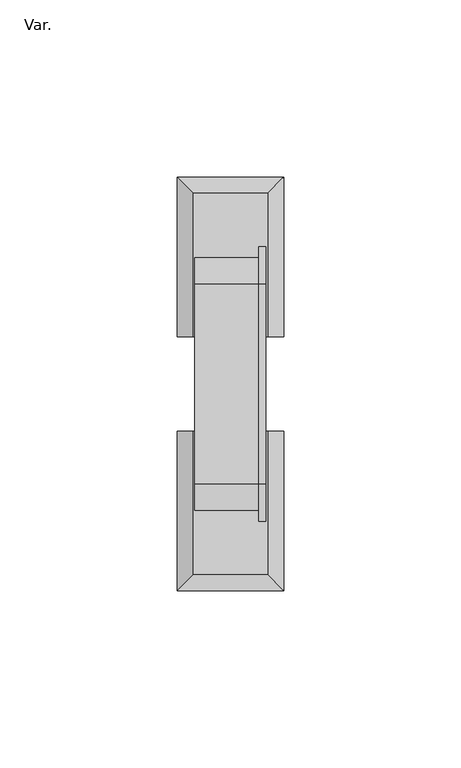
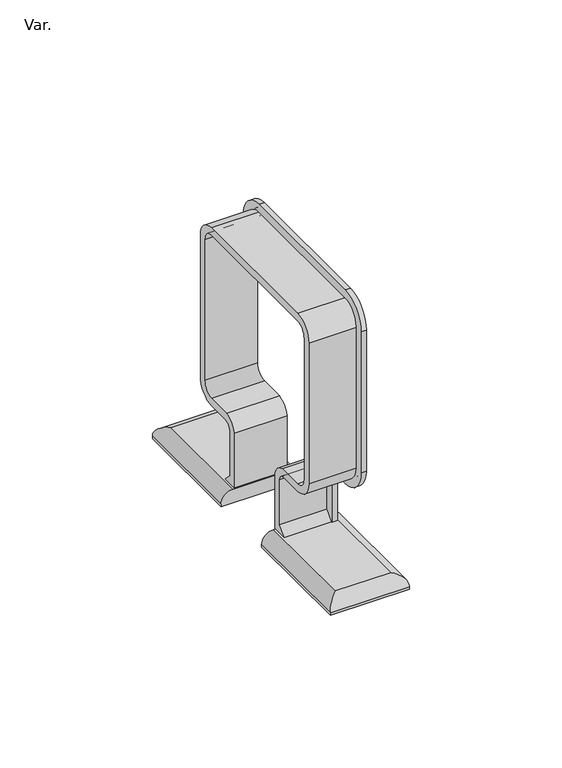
"""IFC4 building model written with IfcOpenShell, lengths in millimetres: pipe fitting geometry, PavcoWavin_UnionesDeTuberia_ZBajante Tradicional_Soporte_NoUsarUnion : Var.."""

from ifc_helpers import new_model, si_unit, point, frame, frame_2d, origin, place, context, project, spatial, polyline, circle_curve, ellipse_curve, trimmed, segment, composite_curve, outline, extrude, source, transform, mapped, element, save
from ifc_brep_helpers import plane_surface, cylinder_surface, advanced_brep


def var_cdb6bf59(model_context):
    return source(origin(), model_context, "Body", "SolidModel", [
        advanced_brep(
        [(25.0, 13.34, -65.265), (25.0, 58.34, -65.265), (25.0, 58.34, -64.265), (25.0, 13.34, -64.265), (-5.0, 58.34, -64.265), (-5.0, 58.34, -65.265), (-5.0, 13.34, -65.265), (-5.0, 13.34, -64.265), (20.5, 53.84, -59.765), (-0.5, 53.84, -59.765), (-0.5, 13.34, -59.765), (20.5, 13.34, -59.765)],
        [
            (0, 1),
            (1, 2),
            (2, 3),
            (3, 0),
            (4, 5),
            (5, 6),
            (6, 7),
            (7, 4),
            (8, 9),
            (9, 10),
            (10, 11),
            (11, 8),
            (6, 0),
            (3, 11, circle_curve(frame((20.5, 13.34, -64.265), z_axis=(0.0, -1.0, 0.0), x_axis=(-1.0, 0.0, 0.0)), 4.5)),
            (10, 7, circle_curve(frame((-0.5, 13.34, -64.265), z_axis=(0.0, -1.0, 0.0), x_axis=(1.0, 0.0, 0.0)), 4.5)),
            (5, 1),
            (2, 8, ellipse_curve(frame((20.5, 53.84, -64.265), z_axis=(0.7071067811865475, -0.7071067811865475, 0.0), x_axis=(0.7071067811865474, 0.7071067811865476, 0.0)), 6.363961, 4.5)),
            (9, 4, ellipse_curve(frame((-0.5, 53.84, -64.265), z_axis=(-0.7071067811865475, -0.7071067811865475, 0.0), x_axis=(-0.7071067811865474, 0.7071067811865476, 0.0)), 6.363961, 4.5)),
            (4, 2),
        ],
        [
            plane_surface(frame((25.0, 13.34, -59.765), z_axis=(1.0, 0.0, 0.0), x_axis=(0.0, -1.0, 0.0))),
            plane_surface(frame((-5.0, 13.34, -59.765), z_axis=(-1.0, 0.0, 0.0), x_axis=(0.0, 1.0, 0.0))),
            plane_surface(frame((25.0, 53.84, -59.765), z_axis=(0.0, 0.0, 1.0), x_axis=(-1.0, 0.0, 0.0))),
            plane_surface(frame((25.0, 13.34, -59.765), z_axis=(0.0, -1.0, 0.0), x_axis=(-1.0, 0.0, 0.0))),
            plane_surface(frame((25.0, 13.34, -65.265), z_axis=(0.0, 0.0, -1.0), x_axis=(-1.0, 0.0, 0.0))),
            cylinder_surface(frame((20.5, 77.5, -64.265), z_axis=(0.0, 1.0, 0.0), x_axis=(-1.0, 0.0, 0.0)), 4.5),
            cylinder_surface(frame((-0.5, 0.0, -64.265), z_axis=(0.0, 1.0, 0.0), x_axis=(1.0, 0.0, 0.0)), 4.5),
            plane_surface(frame((25.0, 58.34, -65.265), z_axis=(0.0, 1.0, 0.0), x_axis=(-1.0, 0.0, 0.0))),
            cylinder_surface(frame((-5.0, 53.84, -64.265), z_axis=(1.0, 0.0, 0.0), x_axis=(0.0, -1.0, 0.0)), 4.5),
        ],
        [
            (0, [[1, 2, 3, 4]]),
            (1, [[5, 6, 7, 8]]),
            (2, [[9, 10, 11, 12]]),
            (3, [[13, -4, 14, -11, 15, -7]]),
            (4, [[-1, -13, -6, 16]]),
            (5, [[-3, 17, -12, -14]]),
            (6, [[-8, -15, -10, 18]]),
            (7, [[-2, -16, -5, 19]]),
            (8, [[-19, -18, -9, -17]]),
        ],
    ),
        advanced_brep(
        [(25.0, -58.34, -64.265), (25.0, -58.34, -65.265), (25.0, -13.34, -65.265), (25.0, -13.34, -64.265), (-5.0, -13.34, -65.265), (-5.0, -58.34, -65.265), (-5.0, -58.34, -64.265), (-5.0, -13.34, -64.265), (20.5, -53.84, -59.765), (-0.5, -53.84, -59.765), (-0.5, -13.34, -59.765), (20.5, -13.34, -59.765)],
        [
            (0, 1),
            (1, 2),
            (2, 3),
            (3, 0),
            (4, 5),
            (5, 6),
            (6, 7),
            (7, 4),
            (6, 0),
            (0, 8, ellipse_curve(frame((20.5, -53.84, -64.265), z_axis=(-0.7071067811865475, -0.7071067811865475, 0.0), x_axis=(0.7071067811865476, -0.7071067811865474, 0.0)), 6.363961, 4.5)),
            (8, 9),
            (9, 6, ellipse_curve(frame((-0.5, -53.84, -64.265), z_axis=(0.7071067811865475, -0.7071067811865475, 0.0), x_axis=(0.7071067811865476, 0.7071067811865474, 0.0)), 6.363961, 4.5)),
            (5, 1),
            (4, 2),
            (7, 10, circle_curve(frame((-0.5, -13.34, -64.265), z_axis=(0.0, 1.0, 0.0), x_axis=(1.0, 0.0, 0.0)), 4.5)),
            (10, 11),
            (11, 3, circle_curve(frame((20.5, -13.34, -64.265), z_axis=(0.0, 1.0, 0.0), x_axis=(-1.0, 0.0, 0.0)), 4.5)),
            (8, 11),
            (10, 9),
        ],
        [
            plane_surface(frame((25.0, 13.34, -59.765), z_axis=(1.0, 0.0, 0.0), x_axis=(0.0, -1.0, 0.0))),
            plane_surface(frame((-5.0, 13.34, -59.765), z_axis=(-1.0, 0.0, 0.0), x_axis=(0.0, 1.0, 0.0))),
            cylinder_surface(frame((0.0, -53.84, -64.265), z_axis=(1.0, 0.0, 0.0), x_axis=(0.0, 1.0, 0.0)), 4.5),
            plane_surface(frame((25.0, -58.34, -64.265), z_axis=(0.0, -1.0, 0.0), x_axis=(-1.0, 0.0, 0.0))),
            plane_surface(frame((25.0, -58.34, -65.265), z_axis=(0.0, 0.0, -1.0), x_axis=(-1.0, 0.0, 0.0))),
            plane_surface(frame((25.0, -13.34, -65.265), z_axis=(0.0, 1.0, 0.0), x_axis=(-1.0, 0.0, 0.0))),
            plane_surface(frame((25.0, -13.34, -59.765), z_axis=(0.0, 0.0, 1.0), x_axis=(-1.0, 0.0, 0.0))),
            cylinder_surface(frame((20.5, 77.5, -64.265), z_axis=(0.0, 1.0, 0.0), x_axis=(-1.0, 0.0, 0.0)), 4.5),
            cylinder_surface(frame((-0.5, 0.0, -64.265), z_axis=(0.0, 1.0, 0.0), x_axis=(1.0, 0.0, 0.0)), 4.5),
        ],
        [
            (0, [[1, 2, 3, 4]]),
            (1, [[5, 6, 7, 8]]),
            (2, [[9, 10, 11, 12]]),
            (3, [[-1, -9, -6, 13]]),
            (4, [[-2, -13, -5, 14]]),
            (5, [[-14, -8, 15, 16, 17, -3]]),
            (6, [[-11, 18, -16, 19]]),
            (7, [[-4, -17, -18, -10]]),
            (8, [[-7, -12, -19, -15]]),
        ],
    ),
        extrude(outline(composite_curve([segment(trimmed(circle_curve(frame_2d((28.165, 28.165)), 7.4), [point((35.565, 28.165))], [point((28.165, 35.565))], True, "CARTESIAN"), True, "CONTINUOUS"), segment(polyline([(28.165, 35.565), (-28.165, 35.565)]), True, "CONTINUOUS"), segment(trimmed(circle_curve(frame_2d((-28.165, 28.165)), 7.4), [point((-28.165, 35.565))], [point((-35.565, 28.165))], True, "CARTESIAN"), True, "CONTINUOUS"), segment(polyline([(-35.565, 28.165), (-35.565, -28.165)]), True, "CONTINUOUS"), segment(trimmed(circle_curve(frame_2d((-28.165, -28.165)), 7.4), [point((-35.565, -28.165))], [point((-28.165, -35.565))], True, "CARTESIAN"), True, "CONTINUOUS"), segment(polyline([(-28.165, -35.565), (-18.9164961, -35.565)]), True, "CONTINUOUS"), segment(trimmed(circle_curve(frame_2d((-19.6122672, -38.9951461)), 3.5), [point((-18.9164961, -35.565))], [point((-16.1821211, -38.299375))], False, "CARTESIAN"), True, "CONTINUOUS"), segment(polyline([(-16.1821211, -38.299375), (-16.1821211, -56.265), (-19.6821211, -59.765), (-19.6821211, -38.665), (-28.165, -38.665)]), True, "CONTINUOUS"), segment(trimmed(circle_curve(frame_2d((-28.165, -28.165)), 10.5), [point((-28.165, -38.665))], [point((-38.665, -28.165))], False, "CARTESIAN"), True, "CONTINUOUS"), segment(polyline([(-38.665, -28.165), (-38.665, 28.165)]), True, "CONTINUOUS"), segment(trimmed(circle_curve(frame_2d((-28.165, 28.165)), 10.5), [point((-38.665, 28.165))], [point((-28.165, 38.665))], False, "CARTESIAN"), True, "CONTINUOUS"), segment(polyline([(-28.165, 38.665), (28.165, 38.665)]), True, "CONTINUOUS"), segment(trimmed(circle_curve(frame_2d((28.165, 28.165)), 10.5), [point((28.165, 38.665))], [point((38.665, 28.165))], False, "CARTESIAN"), True, "CONTINUOUS"), segment(polyline([(38.665, 28.165), (38.665, -28.165)]), True, "CONTINUOUS"), segment(trimmed(circle_curve(frame_2d((28.165, -28.165)), 10.5), [point((38.665, -28.165))], [point((28.165, -38.665))], False, "CARTESIAN"), True, "CONTINUOUS"), segment(polyline([(28.165, -38.665), (19.6821211, -38.665), (19.6821211, -59.765), (16.1821211, -56.265), (16.1821211, -38.299375)]), True, "CONTINUOUS"), segment(trimmed(circle_curve(frame_2d((19.6122672, -38.9951461)), 3.5), [point((16.1821211, -38.299375))], [point((18.9164961, -35.565))], False, "CARTESIAN"), True, "CONTINUOUS"), segment(polyline([(18.9164961, -35.565), (28.165, -35.565)]), True, "CONTINUOUS"), segment(trimmed(circle_curve(frame_2d((28.165, -28.165)), 7.4), [point((28.165, -35.565))], [point((35.565, -28.165))], True, "CARTESIAN"), True, "CONTINUOUS"), segment(polyline([(35.565, -28.165), (35.565, 28.165)]), True, "CONTINUOUS")], self_intersect=False)), frame((18.0, 0.0, 0.0), z_axis=(1.0, 0.0, 0.0), x_axis=(0.0, 1.0, 0.0)), (0.0, 0.0, 1.0), 2.0),
        extrude(outline(composite_curve([segment(polyline([(35.565, 28.165), (35.565, -28.165)]), True, "CONTINUOUS"), segment(trimmed(circle_curve(frame_2d((28.165, -28.165)), 7.4), [point((35.565, -28.165))], [point((28.165, -35.565))], False, "CARTESIAN"), True, "CONTINUOUS"), segment(polyline([(28.165, -35.565), (18.9164961, -35.565)]), True, "CONTINUOUS"), segment(trimmed(circle_curve(frame_2d((19.6122672, -38.9951461)), 3.5), [point((18.9164961, -35.565))], [point((16.1821211, -38.299375))], True, "CARTESIAN"), True, "CONTINUOUS"), segment(polyline([(16.1821211, -38.299375), (16.1821211, -56.265), (19.6821211, -59.765), (13.34, -59.765), (13.34, -37.665)]), True, "CONTINUOUS"), segment(trimmed(circle_curve(frame_2d((19.6122672, -38.9372672)), 6.4), [point((13.34, -37.665))], [point((18.34, -32.665))], False, "CARTESIAN"), True, "CONTINUOUS"), segment(polyline([(18.34, -32.665), (28.165, -32.665)]), True, "CONTINUOUS"), segment(trimmed(circle_curve(frame_2d((28.165, -28.165)), 4.5), [point((28.165, -32.665))], [point((32.665, -28.165))], True, "CARTESIAN"), True, "CONTINUOUS"), segment(polyline([(32.665, -28.165), (32.665, 28.165)]), True, "CONTINUOUS"), segment(trimmed(circle_curve(frame_2d((28.165, 28.165)), 4.5), [point((32.665, 28.165))], [point((28.165, 32.665))], True, "CARTESIAN"), True, "CONTINUOUS"), segment(polyline([(28.165, 32.665), (-28.165, 32.665)]), True, "CONTINUOUS"), segment(trimmed(circle_curve(frame_2d((-28.165, 28.165)), 4.5), [point((-28.165, 32.665))], [point((-32.665, 28.165))], True, "CARTESIAN"), True, "CONTINUOUS"), segment(polyline([(-32.665, 28.165), (-32.665, -28.165)]), True, "CONTINUOUS"), segment(trimmed(circle_curve(frame_2d((-28.165, -28.165)), 4.5), [point((-32.665, -28.165))], [point((-28.165, -32.665))], True, "CARTESIAN"), True, "CONTINUOUS"), segment(polyline([(-28.165, -32.665), (-18.34, -32.665)]), True, "CONTINUOUS"), segment(trimmed(circle_curve(frame_2d((-19.6122672, -38.9372672)), 6.4), [point((-18.34, -32.665))], [point((-13.34, -37.665))], False, "CARTESIAN"), True, "CONTINUOUS"), segment(polyline([(-13.34, -37.665), (-13.34, -59.765), (-19.6821211, -59.765), (-16.1821211, -56.265), (-16.1821211, -38.299375)]), True, "CONTINUOUS"), segment(trimmed(circle_curve(frame_2d((-19.6122672, -38.9951461)), 3.5), [point((-16.1821211, -38.299375))], [point((-18.9164961, -35.565))], True, "CARTESIAN"), True, "CONTINUOUS"), segment(polyline([(-18.9164961, -35.565), (-28.165, -35.565)]), True, "CONTINUOUS"), segment(trimmed(circle_curve(frame_2d((-28.165, -28.165)), 7.4), [point((-28.165, -35.565))], [point((-35.565, -28.165))], False, "CARTESIAN"), True, "CONTINUOUS"), segment(polyline([(-35.565, -28.165), (-35.565, 28.165)]), True, "CONTINUOUS"), segment(trimmed(circle_curve(frame_2d((-28.165, 28.165)), 7.4), [point((-35.565, 28.165))], [point((-28.165, 35.565))], False, "CARTESIAN"), True, "CONTINUOUS"), segment(polyline([(-28.165, 35.565), (28.165, 35.565)]), True, "CONTINUOUS"), segment(trimmed(circle_curve(frame_2d((28.165, 28.165)), 7.4), [point((28.165, 35.565))], [point((35.565, 28.165))], False, "CARTESIAN"), True, "CONTINUOUS")], self_intersect=False)), frame((0.0, 0.0, 0.0), z_axis=(1.0, 0.0, 0.0), x_axis=(0.0, 1.0, 0.0)), (0.0, 0.0, 1.0), 20.0),
    ])


if __name__ == "__main__":
    model = new_model("IFC4")
    model_context = context("Model", 3, world=origin())
    ifc_project = project(units=[si_unit("LENGTHUNIT", "METRE", prefix="MILLI")], contexts=[model_context])
    site = spatial("IfcSite", under=ifc_project)
    building = spatial("IfcBuilding", under=site)
    placement = place(None, origin())
    var_shape = var_cdb6bf59(model_context)
    element("IfcPipeFitting", 1, ObjectType="PavcoWavin_UnionesDeTuberia_ZBajante Tradicional_Soporte_NoUsarUnion : Var.", at=placement, inside=building, context=model_context, shape_type="MappedRepresentation", body=[
        mapped(var_shape, transform((0.0, 0.0, 0.0), x_axis=(1.0, 0.0, 0.0), y_axis=(0.0, 1.0, 0.0), z_axis=(0.0, 0.0, 1.0))),
    ])
    save(model, "model.ifc")
